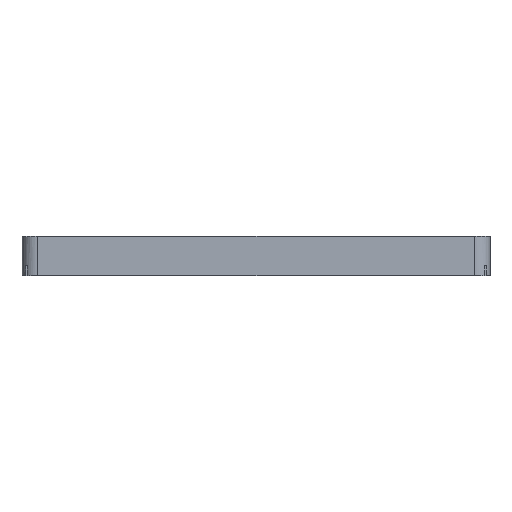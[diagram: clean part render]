
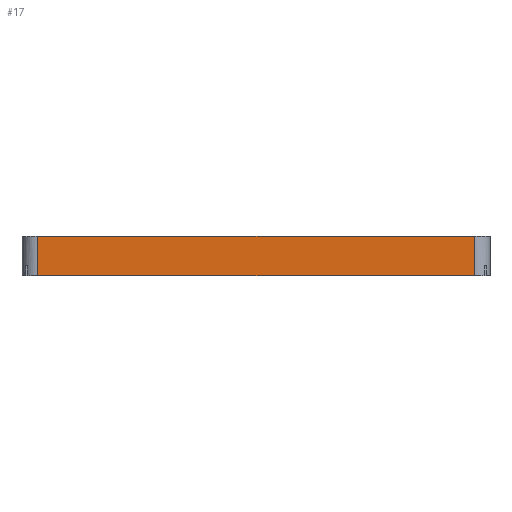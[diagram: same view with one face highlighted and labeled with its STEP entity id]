
A CAD part, left-side view. The second image highlights one B-rep face of the part: STEP entity #17.
In plain terms, the highlighted planar face has unit normal (-1, 0, 0).
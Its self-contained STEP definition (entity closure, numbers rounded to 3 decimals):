
#17 = ADVANCED_FACE('',(#18),#32,.F.);
#18 = FACE_BOUND('',#19,.F.);
#19 = EDGE_LOOP('',(#20,#55,#83,#111));
#20 = ORIENTED_EDGE('',*,*,#21,.F.);
#21 = EDGE_CURVE('',#22,#24,#26,.T.);
#22 = VERTEX_POINT('',#23);
#23 = CARTESIAN_POINT('',(-110.,-56.,70.));
#24 = VERTEX_POINT('',#25);
#25 = CARTESIAN_POINT('',(-110.,56.,70.));
#26 = SURFACE_CURVE('',#27,(#31,#43),.PCURVE_S1.);
#27 = LINE('',#28,#29);
#28 = CARTESIAN_POINT('',(-110.,-60.,70.));
#29 = VECTOR('',#30,1.);
#30 = DIRECTION('',(0.,1.,0.));
#31 = PCURVE('',#32,#37);
#32 = PLANE('',#33);
#33 = AXIS2_PLACEMENT_3D('',#34,#35,#36);
#34 = CARTESIAN_POINT('',(-110.,-60.,60.));
#35 = DIRECTION('',(1.,0.,0.));
#36 = DIRECTION('',(0.,0.,1.));
#37 = DEFINITIONAL_REPRESENTATION('',(#38),#42);
#38 = LINE('',#39,#40);
#39 = CARTESIAN_POINT('',(10.,0.));
#40 = VECTOR('',#41,1.);
#41 = DIRECTION('',(0.,-1.));
#42 = ( GEOMETRIC_REPRESENTATION_CONTEXT(2) 
PARAMETRIC_REPRESENTATION_CONTEXT() REPRESENTATION_CONTEXT('2D SPACE',''
  ) );
#43 = PCURVE('',#44,#49);
#44 = PLANE('',#45);
#45 = AXIS2_PLACEMENT_3D('',#46,#47,#48);
#46 = CARTESIAN_POINT('',(-110.,-60.,70.));
#47 = DIRECTION('',(0.,0.,1.));
#48 = DIRECTION('',(1.,0.,0.));
#49 = DEFINITIONAL_REPRESENTATION('',(#50),#54);
#50 = LINE('',#51,#52);
#51 = CARTESIAN_POINT('',(0.,0.));
#52 = VECTOR('',#53,1.);
#53 = DIRECTION('',(0.,1.));
#54 = ( GEOMETRIC_REPRESENTATION_CONTEXT(2) 
PARAMETRIC_REPRESENTATION_CONTEXT() REPRESENTATION_CONTEXT('2D SPACE',''
  ) );
#55 = ORIENTED_EDGE('',*,*,#56,.F.);
#56 = EDGE_CURVE('',#57,#22,#59,.T.);
#57 = VERTEX_POINT('',#58);
#58 = CARTESIAN_POINT('',(-110.,-56.,60.));
#59 = SURFACE_CURVE('',#60,(#64,#71),.PCURVE_S1.);
#60 = LINE('',#61,#62);
#61 = CARTESIAN_POINT('',(-110.,-56.,60.));
#62 = VECTOR('',#63,1.);
#63 = DIRECTION('',(0.,0.,1.));
#64 = PCURVE('',#32,#65);
#65 = DEFINITIONAL_REPRESENTATION('',(#66),#70);
#66 = LINE('',#67,#68);
#67 = CARTESIAN_POINT('',(0.,-4.));
#68 = VECTOR('',#69,1.);
#69 = DIRECTION('',(1.,0.));
#70 = ( GEOMETRIC_REPRESENTATION_CONTEXT(2) 
PARAMETRIC_REPRESENTATION_CONTEXT() REPRESENTATION_CONTEXT('2D SPACE',''
  ) );
#71 = PCURVE('',#72,#77);
#72 = CYLINDRICAL_SURFACE('',#73,4.);
#73 = AXIS2_PLACEMENT_3D('',#74,#75,#76);
#74 = CARTESIAN_POINT('',(-106.,-56.,60.));
#75 = DIRECTION('',(0.,0.,1.));
#76 = DIRECTION('',(-1.,-0.,0.));
#77 = DEFINITIONAL_REPRESENTATION('',(#78),#82);
#78 = LINE('',#79,#80);
#79 = CARTESIAN_POINT('',(0.,0.));
#80 = VECTOR('',#81,1.);
#81 = DIRECTION('',(0.,1.));
#82 = ( GEOMETRIC_REPRESENTATION_CONTEXT(2) 
PARAMETRIC_REPRESENTATION_CONTEXT() REPRESENTATION_CONTEXT('2D SPACE',''
  ) );
#83 = ORIENTED_EDGE('',*,*,#84,.T.);
#84 = EDGE_CURVE('',#57,#85,#87,.T.);
#85 = VERTEX_POINT('',#86);
#86 = CARTESIAN_POINT('',(-110.,56.,60.));
#87 = SURFACE_CURVE('',#88,(#92,#99),.PCURVE_S1.);
#88 = LINE('',#89,#90);
#89 = CARTESIAN_POINT('',(-110.,-60.,60.));
#90 = VECTOR('',#91,1.);
#91 = DIRECTION('',(0.,1.,0.));
#92 = PCURVE('',#32,#93);
#93 = DEFINITIONAL_REPRESENTATION('',(#94),#98);
#94 = LINE('',#95,#96);
#95 = CARTESIAN_POINT('',(0.,0.));
#96 = VECTOR('',#97,1.);
#97 = DIRECTION('',(0.,-1.));
#98 = ( GEOMETRIC_REPRESENTATION_CONTEXT(2) 
PARAMETRIC_REPRESENTATION_CONTEXT() REPRESENTATION_CONTEXT('2D SPACE',''
  ) );
#99 = PCURVE('',#100,#105);
#100 = PLANE('',#101);
#101 = AXIS2_PLACEMENT_3D('',#102,#103,#104);
#102 = CARTESIAN_POINT('',(-110.,-60.,60.));
#103 = DIRECTION('',(0.,0.,1.));
#104 = DIRECTION('',(1.,0.,0.));
#105 = DEFINITIONAL_REPRESENTATION('',(#106),#110);
#106 = LINE('',#107,#108);
#107 = CARTESIAN_POINT('',(0.,0.));
#108 = VECTOR('',#109,1.);
#109 = DIRECTION('',(0.,1.));
#110 = ( GEOMETRIC_REPRESENTATION_CONTEXT(2) 
PARAMETRIC_REPRESENTATION_CONTEXT() REPRESENTATION_CONTEXT('2D SPACE',''
  ) );
#111 = ORIENTED_EDGE('',*,*,#112,.T.);
#112 = EDGE_CURVE('',#85,#24,#113,.T.);
#113 = SURFACE_CURVE('',#114,(#118,#125),.PCURVE_S1.);
#114 = LINE('',#115,#116);
#115 = CARTESIAN_POINT('',(-110.,56.,60.));
#116 = VECTOR('',#117,1.);
#117 = DIRECTION('',(0.,0.,1.));
#118 = PCURVE('',#32,#119);
#119 = DEFINITIONAL_REPRESENTATION('',(#120),#124);
#120 = LINE('',#121,#122);
#121 = CARTESIAN_POINT('',(0.,-116.));
#122 = VECTOR('',#123,1.);
#123 = DIRECTION('',(1.,0.));
#124 = ( GEOMETRIC_REPRESENTATION_CONTEXT(2) 
PARAMETRIC_REPRESENTATION_CONTEXT() REPRESENTATION_CONTEXT('2D SPACE',''
  ) );
#125 = PCURVE('',#126,#131);
#126 = CYLINDRICAL_SURFACE('',#127,4.);
#127 = AXIS2_PLACEMENT_3D('',#128,#129,#130);
#128 = CARTESIAN_POINT('',(-106.,56.,60.));
#129 = DIRECTION('',(0.,0.,1.));
#130 = DIRECTION('',(-1.,-0.,0.));
#131 = DEFINITIONAL_REPRESENTATION('',(#132),#136);
#132 = LINE('',#133,#134);
#133 = CARTESIAN_POINT('',(-0.,0.));
#134 = VECTOR('',#135,1.);
#135 = DIRECTION('',(-0.,1.));
#136 = ( GEOMETRIC_REPRESENTATION_CONTEXT(2) 
PARAMETRIC_REPRESENTATION_CONTEXT() REPRESENTATION_CONTEXT('2D SPACE',''
  ) );
